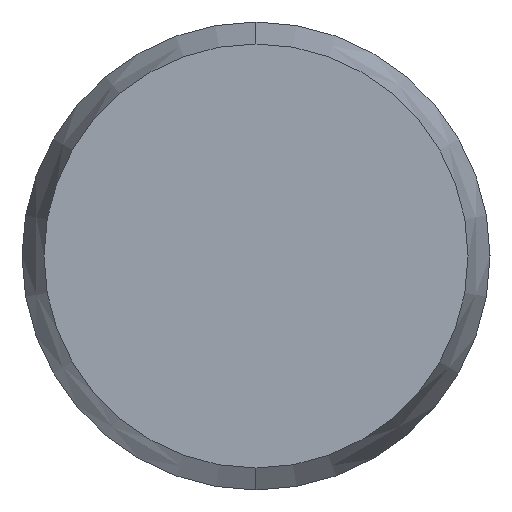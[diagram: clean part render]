
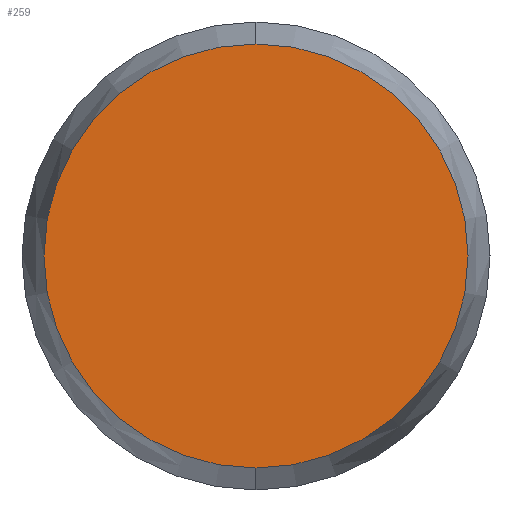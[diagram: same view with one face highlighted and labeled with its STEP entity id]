
A CAD part, left-side view. The second image highlights one B-rep face of the part: STEP entity #259.
In plain terms, the highlighted planar face has unit normal (-1, 0, 0).
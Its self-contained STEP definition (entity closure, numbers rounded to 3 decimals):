
#72 = DIRECTION ( 'NONE',  ( 0., 0., -1. ) ) ;
#82 = DIRECTION ( 'NONE',  ( 1., 0., 0. ) ) ;
#90 = DIRECTION ( 'NONE',  ( 0., 0., -1. ) ) ;
#103 = CARTESIAN_POINT ( 'NONE',  ( -9., 0., -1.812 ) ) ;
#106 = DIRECTION ( 'NONE',  ( 1., 0., 0. ) ) ;
#107 = CARTESIAN_POINT ( 'NONE',  ( -9., 0., 0. ) ) ;
#108 = AXIS2_PLACEMENT_3D ( 'NONE', #107, #106, #72 ) ;
#109 = CIRCLE ( 'NONE', #108, 1.812 ) ;
#174 = CARTESIAN_POINT ( 'NONE',  ( -9., 0., 0. ) ) ;
#175 = AXIS2_PLACEMENT_3D ( 'NONE', #174, #82, #90 ) ;
#177 = PLANE ( 'NONE',  #175 ) ;
#178 = DIRECTION ( 'NONE',  ( 0., 0., -1. ) ) ;
#179 = DIRECTION ( 'NONE',  ( 1., 0., 0. ) ) ;
#180 = AXIS2_PLACEMENT_3D ( 'NONE', #187, #179, #178 ) ;
#181 = CIRCLE ( 'NONE', #180, 1.812 ) ;
#182 = FACE_OUTER_BOUND ( 'NONE', #248, .T. ) ;
#187 = CARTESIAN_POINT ( 'NONE',  ( -9., 0., 0. ) ) ;
#205 = CARTESIAN_POINT ( 'NONE',  ( -9., 0., 1.812 ) ) ;
#210 = VERTEX_POINT ( 'NONE', #205 ) ;
#212 = VERTEX_POINT ( 'NONE', #103 ) ;
#217 = EDGE_CURVE ( 'NONE', #210, #212, #109, .T. ) ;
#248 = EDGE_LOOP ( 'NONE', ( #273, #271 ) ) ;
#257 = EDGE_CURVE ( 'NONE', #212, #210, #181, .T. ) ;
#259 = ADVANCED_FACE ( 'NONE', ( #182 ), #177, .F. ) ;
#271 = ORIENTED_EDGE ( 'NONE', *, *, #257, .F. ) ;
#273 = ORIENTED_EDGE ( 'NONE', *, *, #217, .F. ) ;
